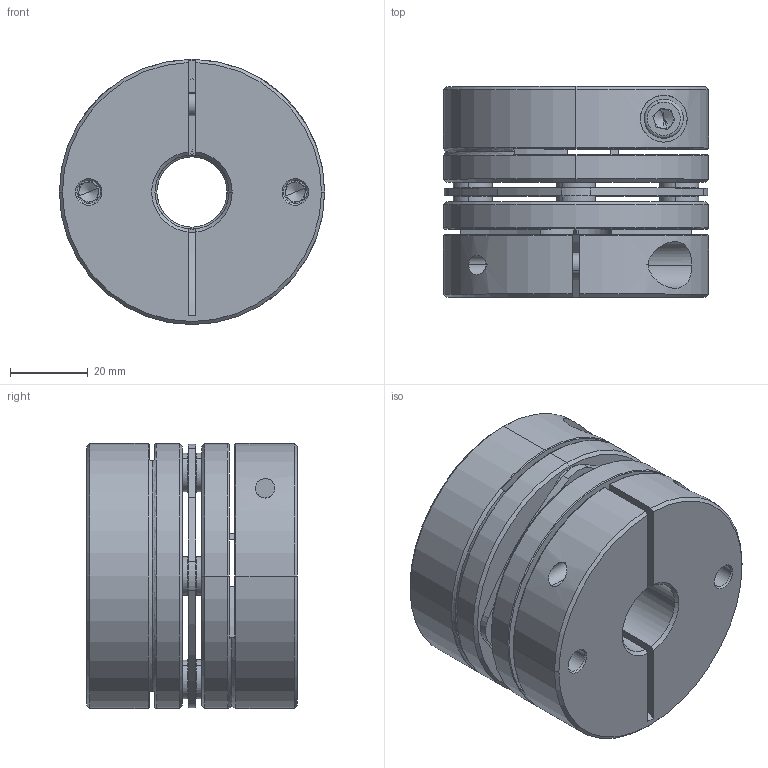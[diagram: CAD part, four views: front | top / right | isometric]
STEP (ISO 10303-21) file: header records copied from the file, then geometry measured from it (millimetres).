
FILE_DESCRIPTION (( 'STEP AP203' ), '1' );
FILE_NAME ('LD1-D68-18-19.STEP', '2021-10-26T07:52:24', ( '' ), ( '' ), 'SwSTEP 2.0', 'SolidWorks 2018', '' );
FILE_SCHEMA (( 'CONFIG_CONTROL_DESIGN' ));
Length unit declared in the file: millimetre
Products named in the file (2): 錨璃101^LD1-D68; LD1-D68-18-19
Assembly tree (1 placements, depth 2):
  LD1-D68-18-19
    錨璃101^LD1-D68
Bounding box: 68 x 54 x 68 mm (x, y, z)
Volume: 153055.3 mm3; surface area: 47056.4 mm2
Topology: 1 solids, 15 shells, 449 faces, 1071 edges, 658 vertices
Faces by surface type: cylinder 165, plane 140, cone 122, torus 22
Entity records: 13597 total; most frequent: CARTESIAN_POINT 2632, DIRECTION 2461, ORIENTED_EDGE 2110, EDGE_CURVE 1055, AXIS2_PLACEMENT_3D 999, VERTEX_POINT 658, CIRCLE 546, EDGE_LOOP 529
